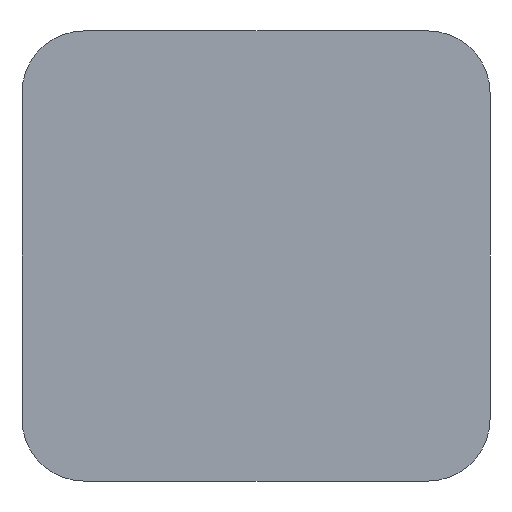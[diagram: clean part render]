
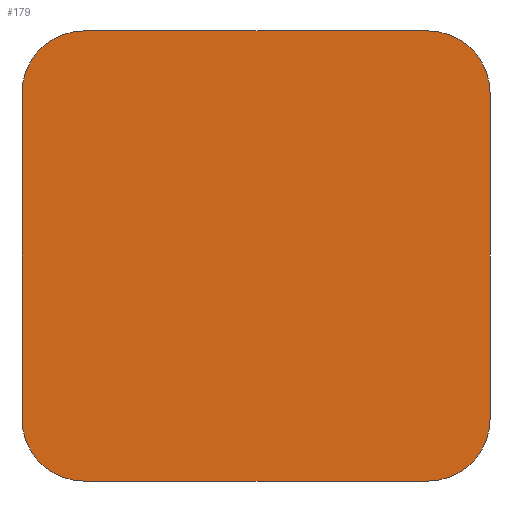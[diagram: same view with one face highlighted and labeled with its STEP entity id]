
A CAD part, front view. The second image highlights one B-rep face of the part: STEP entity #179.
In plain terms, the highlighted planar face has unit normal (0, -1, 0).
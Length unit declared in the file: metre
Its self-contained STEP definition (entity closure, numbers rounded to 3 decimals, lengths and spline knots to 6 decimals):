
#12=CIRCLE('',#195,0.000628);
#14=CIRCLE('',#199,0.000628);
#16=CIRCLE('',#203,0.000628);
#18=CIRCLE('',#207,0.000628);
#64=ORIENTED_EDGE('',*,*,#72,.F.);
#65=ORIENTED_EDGE('',*,*,#94,.F.);
#66=ORIENTED_EDGE('',*,*,#91,.T.);
#67=ORIENTED_EDGE('',*,*,#88,.F.);
#68=ORIENTED_EDGE('',*,*,#85,.T.);
#69=ORIENTED_EDGE('',*,*,#82,.F.);
#70=ORIENTED_EDGE('',*,*,#79,.F.);
#71=ORIENTED_EDGE('',*,*,#76,.F.);
#72=EDGE_CURVE('',#96,#97,#112,.T.);
#76=EDGE_CURVE('',#97,#100,#12,.T.);
#79=EDGE_CURVE('',#100,#102,#117,.T.);
#82=EDGE_CURVE('',#102,#104,#14,.T.);
#85=EDGE_CURVE('',#106,#104,#121,.T.);
#88=EDGE_CURVE('',#106,#108,#16,.T.);
#91=EDGE_CURVE('',#110,#108,#125,.T.);
#94=EDGE_CURVE('',#110,#96,#18,.T.);
#96=VERTEX_POINT('',#268);
#97=VERTEX_POINT('',#269);
#100=VERTEX_POINT('',#277);
#102=VERTEX_POINT('',#283);
#104=VERTEX_POINT('',#289);
#106=VERTEX_POINT('',#295);
#108=VERTEX_POINT('',#301);
#110=VERTEX_POINT('',#307);
#112=LINE('',#267,#128);
#117=LINE('',#282,#133);
#121=LINE('',#294,#137);
#125=LINE('',#306,#141);
#128=VECTOR('',#215,1.);
#133=VECTOR('',#228,1.);
#137=VECTOR('',#240,1.);
#141=VECTOR('',#252,1.);
#153=EDGE_LOOP('',(#64,#65,#66,#67,#68,#69,#70,#71));
#163=FACE_BOUND('',#153,.T.);
#169=PLANE('',#210);
#179=ADVANCED_FACE('',(#163),#169,.F.);
#195=AXIS2_PLACEMENT_3D('',#276,#221,#222);
#199=AXIS2_PLACEMENT_3D('',#288,#233,#234);
#203=AXIS2_PLACEMENT_3D('',#300,#245,#246);
#207=AXIS2_PLACEMENT_3D('',#312,#257,#258);
#210=AXIS2_PLACEMENT_3D('',#315,#263,#264);
#215=DIRECTION('',(0.,0.,1.));
#221=DIRECTION('',(0.,1.,0.));
#222=DIRECTION('',(-1.,0.,0.));
#228=DIRECTION('',(1.,0.,0.));
#233=DIRECTION('',(0.,1.,0.));
#234=DIRECTION('',(0.,0.,1.));
#240=DIRECTION('',(0.,0.,1.));
#245=DIRECTION('',(0.,1.,0.));
#246=DIRECTION('',(1.,0.,0.));
#252=DIRECTION('',(1.,0.,0.));
#257=DIRECTION('',(0.,1.,0.));
#258=DIRECTION('',(0.,0.,-1.));
#263=DIRECTION('',(0.,1.,0.));
#264=DIRECTION('',(1.,0.,0.));
#267=CARTESIAN_POINT('',(0.097776,0.035805,0.09601));
#268=CARTESIAN_POINT('',(0.097776,0.035805,0.094355));
#269=CARTESIAN_POINT('',(0.097776,0.035805,0.097664));
#276=CARTESIAN_POINT('',(0.098404,0.035805,0.097664));
#277=CARTESIAN_POINT('',(0.098404,0.035805,0.098292));
#282=CARTESIAN_POINT('',(0.100149,0.035805,0.098292));
#283=CARTESIAN_POINT('',(0.101895,0.035805,0.098292));
#288=CARTESIAN_POINT('',(0.101895,0.035805,0.097664));
#289=CARTESIAN_POINT('',(0.102522,0.035805,0.097664));
#294=CARTESIAN_POINT('',(0.102522,0.035805,0.09601));
#295=CARTESIAN_POINT('',(0.102522,0.035805,0.094355));
#300=CARTESIAN_POINT('',(0.101895,0.035805,0.094355));
#301=CARTESIAN_POINT('',(0.101895,0.035805,0.093727));
#306=CARTESIAN_POINT('',(0.100149,0.035805,0.093727));
#307=CARTESIAN_POINT('',(0.098404,0.035805,0.093727));
#312=CARTESIAN_POINT('',(0.098404,0.035805,0.094355));
#315=CARTESIAN_POINT('',(0.109049,0.035805,0.069724));
